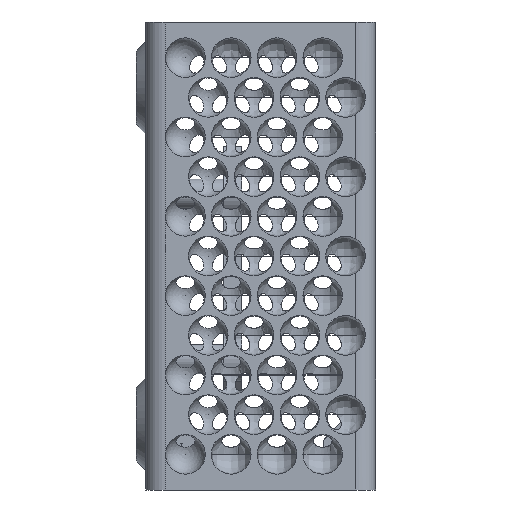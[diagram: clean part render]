
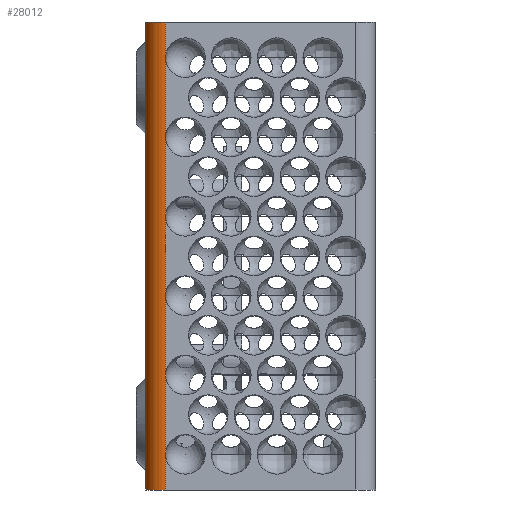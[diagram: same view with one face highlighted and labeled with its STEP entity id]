
A CAD part, left-side view. The second image highlights one B-rep face of the part: STEP entity #28012.
In plain terms, the highlighted cylindrical face has radius 5.399 mm (diameter 10.798 mm), a partial arc.
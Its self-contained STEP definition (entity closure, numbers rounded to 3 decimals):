
#3350=FACE_OUTER_BOUND('',#5827,.T.);
#5827=EDGE_LOOP('',(#25310,#25311,#25312,#25313,#25314,#25315,#25316,#25317,
#25318,#25319,#25320,#25321));
#6879=CIRCLE('',#29048,5.399);
#8911=CIRCLE('',#31660,5.399);
#9232=LINE('',#42073,#10121);
#9233=LINE('',#42099,#10122);
#9234=LINE('',#42104,#10123);
#9235=LINE('',#42109,#10124);
#9236=LINE('',#42129,#10125);
#9267=LINE('',#43088,#10156);
#9268=LINE('',#43090,#10157);
#9270=LINE('',#43110,#10159);
#9271=LINE('',#43112,#10160);
#9447=LINE('',#58097,#10336);
#10121=VECTOR('',#33433,10.);
#10122=VECTOR('',#33458,10.);
#10123=VECTOR('',#33463,10.);
#10124=VECTOR('',#33468,10.);
#10125=VECTOR('',#33487,10.);
#10156=VECTOR('',#34014,10.);
#10157=VECTOR('',#34017,10.);
#10159=VECTOR('',#34045,10.);
#10160=VECTOR('',#34048,10.);
#10336=VECTOR('',#39140,10.);
#11923=VERTEX_POINT('',#42070);
#11924=VERTEX_POINT('',#42072);
#11936=VERTEX_POINT('',#42096);
#11937=VERTEX_POINT('',#42098);
#11939=VERTEX_POINT('',#42103);
#11941=VERTEX_POINT('',#42108);
#11950=VERTEX_POINT('',#42126);
#11951=VERTEX_POINT('',#42128);
#12043=VERTEX_POINT('',#42536);
#12189=VERTEX_POINT('',#43071);
#12194=VERTEX_POINT('',#43093);
#14109=VERTEX_POINT('',#58095);
#15306=EDGE_CURVE('',#11924,#11923,#9232,.T.);
#15319=EDGE_CURVE('',#11937,#11936,#9233,.T.);
#15322=EDGE_CURVE('',#11939,#11937,#9234,.T.);
#15325=EDGE_CURVE('',#11941,#11939,#9235,.T.);
#15335=EDGE_CURVE('',#11951,#11950,#9236,.T.);
#15451=EDGE_CURVE('',#12043,#11951,#6879,.T.);
#15625=EDGE_CURVE('',#12189,#11924,#9267,.T.);
#15626=EDGE_CURVE('',#11936,#12189,#9268,.T.);
#15639=EDGE_CURVE('',#12194,#11941,#9270,.T.);
#15640=EDGE_CURVE('',#11950,#12194,#9271,.T.);
#18035=EDGE_CURVE('',#11923,#14109,#8911,.T.);
#18036=EDGE_CURVE('',#14109,#12043,#9447,.T.);
#25310=ORIENTED_EDGE('',*,*,#15451,.T.);
#25311=ORIENTED_EDGE('',*,*,#15335,.T.);
#25312=ORIENTED_EDGE('',*,*,#15640,.T.);
#25313=ORIENTED_EDGE('',*,*,#15639,.T.);
#25314=ORIENTED_EDGE('',*,*,#15325,.T.);
#25315=ORIENTED_EDGE('',*,*,#15322,.T.);
#25316=ORIENTED_EDGE('',*,*,#15319,.T.);
#25317=ORIENTED_EDGE('',*,*,#15626,.T.);
#25318=ORIENTED_EDGE('',*,*,#15625,.T.);
#25319=ORIENTED_EDGE('',*,*,#15306,.T.);
#25320=ORIENTED_EDGE('',*,*,#18035,.T.);
#25321=ORIENTED_EDGE('',*,*,#18036,.T.);
#27180=CYLINDRICAL_SURFACE('',#31659,5.399);
#28012=ADVANCED_FACE('',(#3350),#27180,.T.);
#29048=AXIS2_PLACEMENT_3D('',#42537,#33709,#33710);
#31659=AXIS2_PLACEMENT_3D('',#58094,#39136,#39137);
#31660=AXIS2_PLACEMENT_3D('',#58096,#39138,#39139);
#33433=DIRECTION('',(0.,0.,-1.));
#33458=DIRECTION('',(0.,0.,-1.));
#33463=DIRECTION('',(0.,0.,-1.));
#33468=DIRECTION('',(0.,0.,-1.));
#33487=DIRECTION('',(0.,0.,-1.));
#33709=DIRECTION('center_axis',(0.,0.,-1.));
#33710=DIRECTION('ref_axis',(-0.707,0.707,0.));
#34014=DIRECTION('',(0.,0.,-1.));
#34017=DIRECTION('',(0.,0.,-1.));
#34045=DIRECTION('',(0.,0.,-1.));
#34048=DIRECTION('',(0.,0.,-1.));
#39136=DIRECTION('center_axis',(0.,0.,1.));
#39137=DIRECTION('ref_axis',(-0.707,0.707,0.));
#39138=DIRECTION('center_axis',(0.,0.,1.));
#39139=DIRECTION('ref_axis',(-0.707,0.707,0.));
#39140=DIRECTION('',(0.,0.,1.));
#42070=CARTESIAN_POINT('',(5.399,6.234,-127.412));
#42072=CARTESIAN_POINT('',(5.399,6.234,-117.694));
#42073=CARTESIAN_POINT('',(5.399,6.234,-95.559));
#42096=CARTESIAN_POINT('',(5.399,6.234,-96.099));
#42098=CARTESIAN_POINT('',(5.399,6.234,-74.503));
#42099=CARTESIAN_POINT('',(5.399,6.234,-95.559));
#42103=CARTESIAN_POINT('',(5.399,6.234,-52.908));
#42104=CARTESIAN_POINT('',(5.399,6.234,-95.559));
#42108=CARTESIAN_POINT('',(5.399,6.234,-31.313));
#42109=CARTESIAN_POINT('',(5.399,6.234,-95.559));
#42126=CARTESIAN_POINT('',(5.399,6.234,-9.718));
#42128=CARTESIAN_POINT('',(5.399,6.234,0.));
#42129=CARTESIAN_POINT('',(5.399,6.234,-95.559));
#42536=CARTESIAN_POINT('',(0.,0.835,0.));
#42537=CARTESIAN_POINT('Origin',(5.399,0.835,0.));
#43071=CARTESIAN_POINT('',(5.399,6.234,-109.513));
#43088=CARTESIAN_POINT('',(5.399,6.234,-95.559));
#43090=CARTESIAN_POINT('',(5.399,6.234,-95.559));
#43093=CARTESIAN_POINT('',(5.399,6.234,-17.899));
#43110=CARTESIAN_POINT('',(5.399,6.234,-95.559));
#43112=CARTESIAN_POINT('',(5.399,6.234,-95.559));
#58094=CARTESIAN_POINT('Origin',(5.399,0.835,-95.559));
#58095=CARTESIAN_POINT('',(0.,0.835,-127.412));
#58096=CARTESIAN_POINT('Origin',(5.399,0.835,-127.412));
#58097=CARTESIAN_POINT('',(0.,0.835,-95.559));
